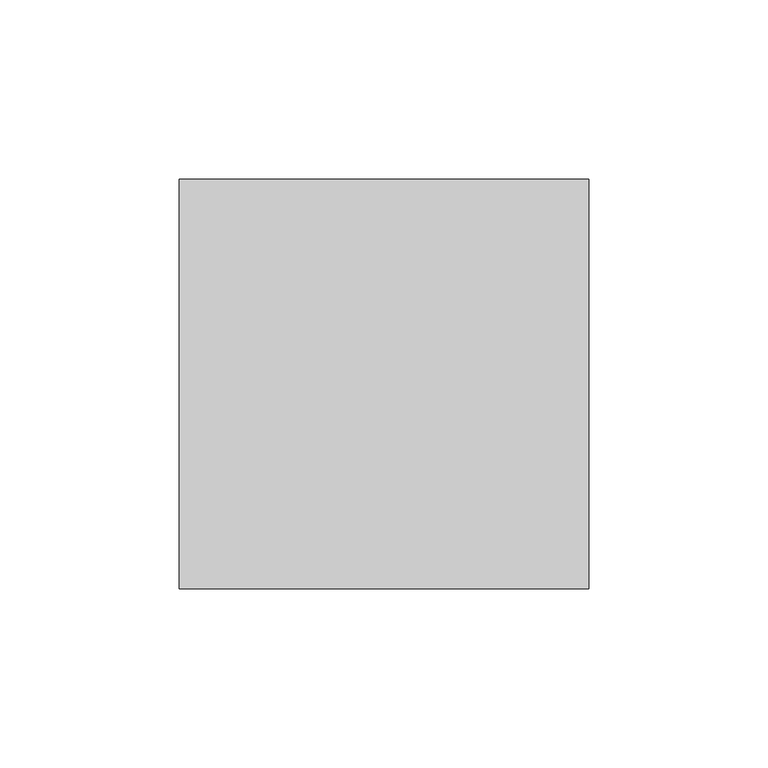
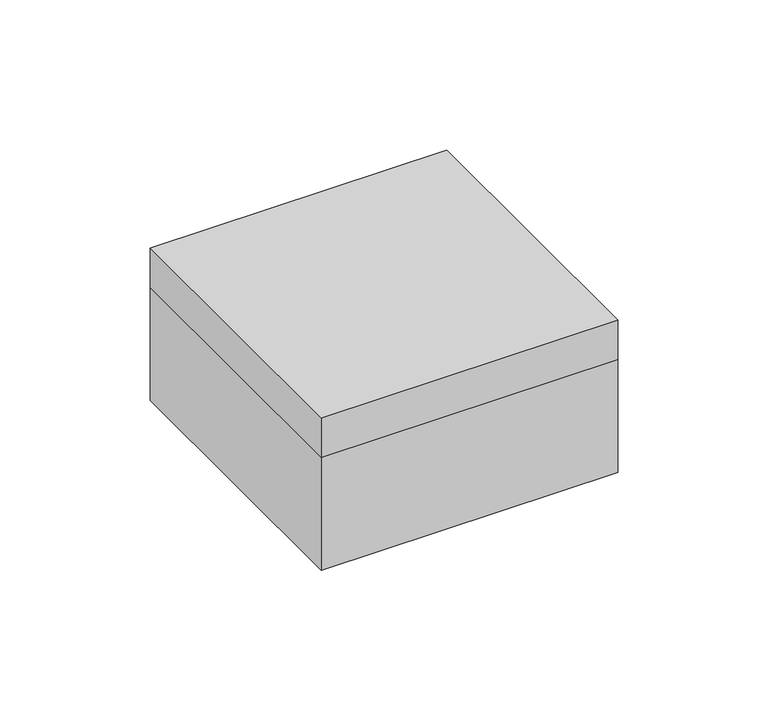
"""IFC4 building model written with IfcOpenShell, lengths in millimetres: cable carrier fitting geometry."""

from ifc_helpers import new_model, si_unit, origin, place, context, project, spatial, faceted_brep, source, transform, mapped, element, save


def cable_carrier_fitting_881643a7(model_context):
    return source(origin(), model_context, "Body", "Brep", [
        faceted_brep([(57.0, 57.0, 62.0), (-57.0, 57.0, 62.0), (-57.0, -57.0, 62.0), (57.0, -57.0, 62.0), (-55.0, -55.0, 60.0), (-55.0, 55.0, 60.0), (55.0, 55.0, 60.0), (55.0, -55.0, 60.0), (57.0, 57.0, 46.0), (57.0, -57.0, 46.0), (-57.0, -57.0, 46.0), (-57.0, 57.0, 46.0), (-55.0, -55.0, 46.0), (55.0, -55.0, 46.0), (55.0, 55.0, 46.0), (-55.0, 55.0, 46.0)], [[[0, 1, 2, 3]], [[4, 5, 6, 7]], [[8, 9, 10, 11], [12, 13, 14, 15]], [[1, 0, 8, 11]], [[2, 1, 11, 10]], [[3, 2, 10, 9]], [[0, 3, 9, 8]], [[12, 15, 5, 4]], [[15, 14, 6, 5]], [[14, 13, 7, 6]], [[13, 12, 4, 7]]]),
        faceted_brep([(-55.0, -55.0, 2.0), (55.0, -55.0, 2.0), (55.0, 55.0, 2.0), (-55.0, 55.0, 2.0), (57.0, 57.0, 0.0), (57.0, -57.0, 0.0), (-57.0, -57.0, 0.0), (-57.0, 57.0, 0.0), (57.0, 57.0, 46.0), (-57.0, 57.0, 46.0), (-57.0, -57.0, 46.0), (57.0, -57.0, 46.0), (55.0, -55.0, 46.0), (-55.0, -55.0, 46.0), (-55.0, 55.0, 46.0), (55.0, 55.0, 46.0)], [[[0, 1, 2, 3]], [[4, 5, 6, 7]], [[8, 9, 10, 11], [12, 13, 14, 15]], [[9, 8, 4, 7]], [[10, 9, 7, 6]], [[11, 10, 6, 5]], [[8, 11, 5, 4]], [[13, 12, 1, 0]], [[14, 13, 0, 3]], [[15, 14, 3, 2]], [[12, 15, 2, 1]]]),
    ])


if __name__ == "__main__":
    model = new_model("IFC4")
    model_context = context("Model", 3, world=origin())
    ifc_project = project(units=[si_unit("LENGTHUNIT", "METRE", prefix="MILLI")], contexts=[model_context])
    site = spatial("IfcSite", under=ifc_project)
    building = spatial("IfcBuilding", under=site)
    placement = place(None, origin())
    cable_carrier_fitting_shape = cable_carrier_fitting_881643a7(model_context)
    element("IfcCableCarrierFitting", 1, at=placement, inside=building, context=model_context, shape_type="MappedRepresentation", body=[
        mapped(cable_carrier_fitting_shape, transform((0.0, 0.0, 0.0), x_axis=(1.0, 0.0, 0.0), y_axis=(0.0, 1.0, 0.0), z_axis=(0.0, 0.0, 1.0))),
    ])
    save(model, "model.ifc")
